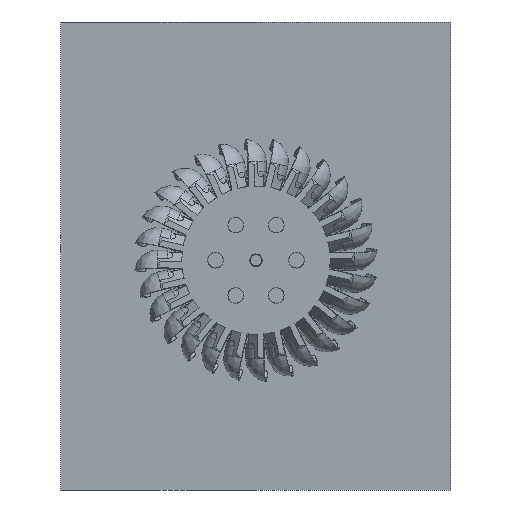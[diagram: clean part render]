
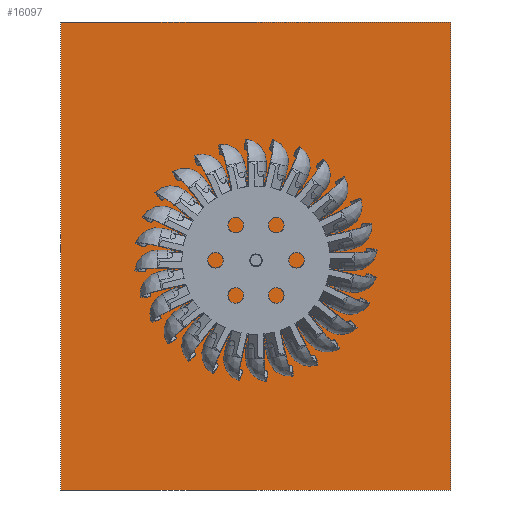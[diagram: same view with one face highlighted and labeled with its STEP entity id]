
A CAD part, front view. The second image highlights one B-rep face of the part: STEP entity #16097.
In plain terms, the highlighted planar face has unit normal (0, -1, 0).
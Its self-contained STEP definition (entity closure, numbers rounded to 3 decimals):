
#327=FACE_BOUND('',#3191,.T.);
#1013=CIRCLE('',#17614,4.5);
#2232=FACE_OUTER_BOUND('',#3190,.T.);
#3190=EDGE_LOOP('',(#14800,#14801,#14802,#14803));
#3191=EDGE_LOOP('',(#14804));
#3943=LINE('',#42784,#4641);
#3947=LINE('',#42792,#4645);
#3950=LINE('',#42798,#4648);
#3953=LINE('',#42803,#4651);
#4641=VECTOR('',#20850,10.);
#4645=VECTOR('',#20856,10.);
#4648=VECTOR('',#20861,10.);
#4651=VECTOR('',#20866,10.);
#7399=VERTEX_POINT('',#42778);
#7400=VERTEX_POINT('',#42782);
#7401=VERTEX_POINT('',#42783);
#7404=VERTEX_POINT('',#42791);
#7406=VERTEX_POINT('',#42797);
#9865=EDGE_CURVE('',#7399,#7399,#1013,.T.);
#9866=EDGE_CURVE('',#7400,#7401,#3943,.T.);
#9870=EDGE_CURVE('',#7404,#7400,#3947,.T.);
#9873=EDGE_CURVE('',#7406,#7404,#3950,.T.);
#9876=EDGE_CURVE('',#7401,#7406,#3953,.T.);
#14800=ORIENTED_EDGE('',*,*,#9876,.F.);
#14801=ORIENTED_EDGE('',*,*,#9866,.F.);
#14802=ORIENTED_EDGE('',*,*,#9870,.F.);
#14803=ORIENTED_EDGE('',*,*,#9873,.F.);
#14804=ORIENTED_EDGE('',*,*,#9865,.T.);
#15207=PLANE('',#17620);
#16097=ADVANCED_FACE('',(#2232,#327),#15207,.F.);
#17614=AXIS2_PLACEMENT_3D('',#42780,#20846,#20847);
#17620=AXIS2_PLACEMENT_3D('',#42806,#20870,#20871);
#20846=DIRECTION('center_axis',(0.,1.,0.));
#20847=DIRECTION('ref_axis',(1.,0.,0.));
#20850=DIRECTION('',(0.,0.,1.));
#20856=DIRECTION('',(-1.,0.,0.));
#20861=DIRECTION('',(0.,0.,-1.));
#20866=DIRECTION('',(1.,0.,0.));
#20870=DIRECTION('center_axis',(0.,1.,0.));
#20871=DIRECTION('ref_axis',(0.,0.,1.));
#42778=CARTESIAN_POINT('',(-1.776,0.,0.));
#42780=CARTESIAN_POINT('Origin',(2.724,0.,0.));
#42782=CARTESIAN_POINT('',(-150.,0.,-125.));
#42783=CARTESIAN_POINT('',(-150.,0.,125.));
#42784=CARTESIAN_POINT('',(-150.,0.,-125.));
#42791=CARTESIAN_POINT('',(150.,0.,-125.));
#42792=CARTESIAN_POINT('',(150.,0.,-125.));
#42797=CARTESIAN_POINT('',(150.,0.,125.));
#42798=CARTESIAN_POINT('',(150.,0.,125.));
#42803=CARTESIAN_POINT('',(-150.,0.,125.));
#42806=CARTESIAN_POINT('Origin',(0.,0.,0.));
